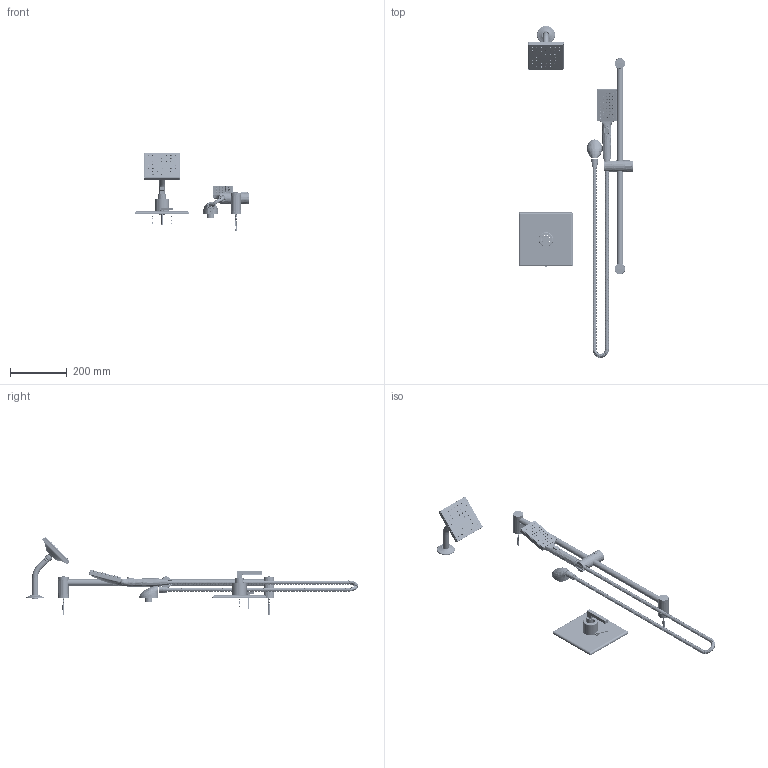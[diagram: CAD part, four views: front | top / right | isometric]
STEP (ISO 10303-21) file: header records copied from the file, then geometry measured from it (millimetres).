
FILE_DESCRIPTION (( 'STEP AP214' ), '1' );
FILE_NAME ('S3698TRM.STEP', '2025-01-15T11:26:56', ( '' ), ( '' ), 'SwSTEP 2.0', 'SolidWorks 2023', '' );
FILE_SCHEMA (( 'AUTOMOTIVE_DESIGN' ));
Length unit declared in the file: inch
Products named in the file (1): S3698TRM
Bounding box: 402.68 x 1171.01 x 277.54 mm (x, y, z)
Surface area: 501497.8 mm2 (no closed solid volume)
Topology: 0 solids, 287 shells, 1973 faces, 7112 edges, 5298 vertices
Faces by surface type: cylinder 706, plane 452, bspline 387, cone 300, torus 116, sphere 12
Entity records: 296015 total; most frequent: CARTESIAN_POINT 243580, ORIENTED_EDGE 10594, DIRECTION 8564, EDGE_CURVE 7093, VERTEX_POINT 5295, AXIS2_PLACEMENT_3D 3137, B_SPLINE_CURVE_WITH_KNOTS 2779, EDGE_LOOP 2404
